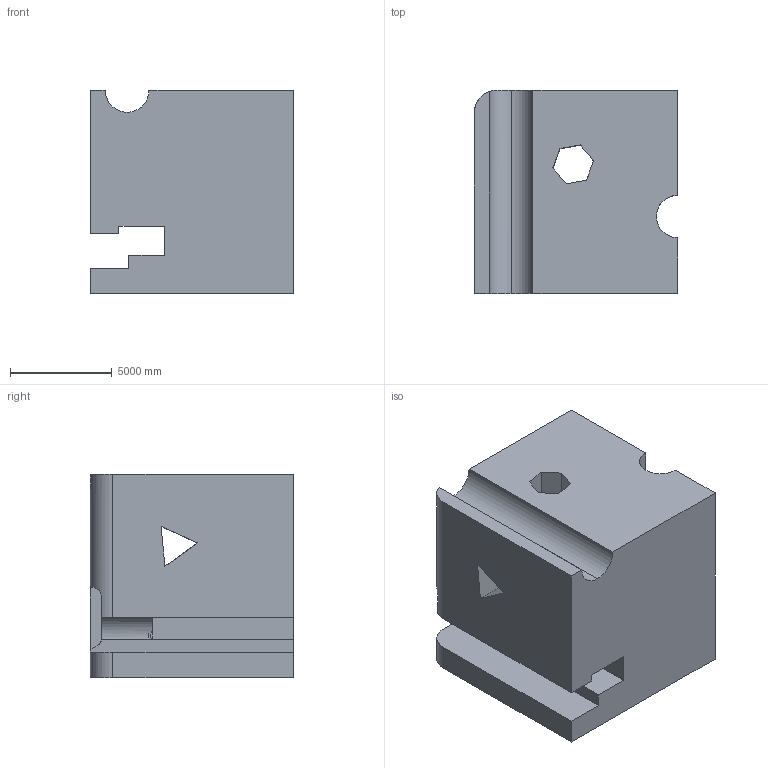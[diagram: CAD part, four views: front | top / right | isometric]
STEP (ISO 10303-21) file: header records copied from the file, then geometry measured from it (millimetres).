
FILE_DESCRIPTION (( 'STEP AP203' ), '1' );
FILE_NAME ('986.STEP', '2022-07-29T14:58:31', ( 'user' ), ( '' ), 'SwSTEP 2.0', 'SolidWorks 2021', '' );
FILE_SCHEMA (( 'CONFIG_CONTROL_DESIGN' ));
Length unit declared in the file: centimetre
Products named in the file (1): 986
Bounding box: 10000 x 10000 x 10000 mm (x, y, z)
Volume: 828464412381.1 mm3; surface area: 797234754.4 mm2
Topology: 1 solids, 1 shells, 48 faces, 150 edges, 100 vertices
Faces by surface type: plane 35, cylinder 13
Entity records: 1972 total; most frequent: CARTESIAN_POINT 543, ORIENTED_EDGE 300, DIRECTION 263, EDGE_CURVE 150, VECTOR 117, LINE 117, VERTEX_POINT 100, AXIS2_PLACEMENT_3D 73
